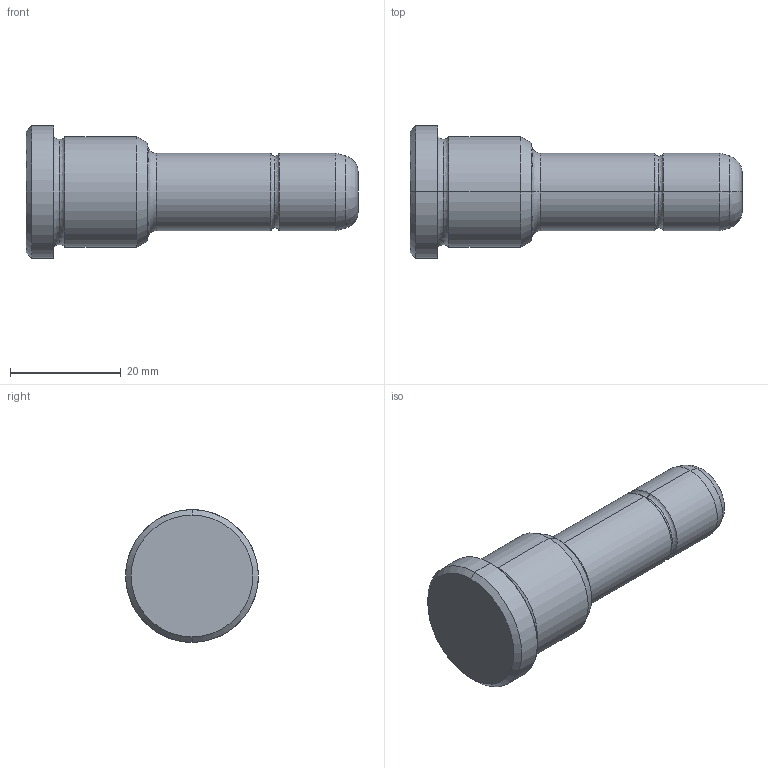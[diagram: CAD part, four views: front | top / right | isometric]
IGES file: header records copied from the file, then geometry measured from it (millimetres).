
Start section: START RECORD GO HERE.
Global section: file name: 351-14X22X60.igs; native system: DASSAULT SYSTEMES CATIA V5 R20 - www.3ds.com; preprocessor: CATIA Version 5 Release 20 ; author: Utente; organization: NB04-ASUS; date: 20210818.120029; units: millimetre
Bounding box: 60 x 24 x 24 mm (x, y, z)
Surface area: 3842.8 mm2 (no closed solid volume)
Topology: 0 solids, 0 shells, 30 faces, 172 edges, 172 vertices
Faces by surface type: revolution 26, plane 4
